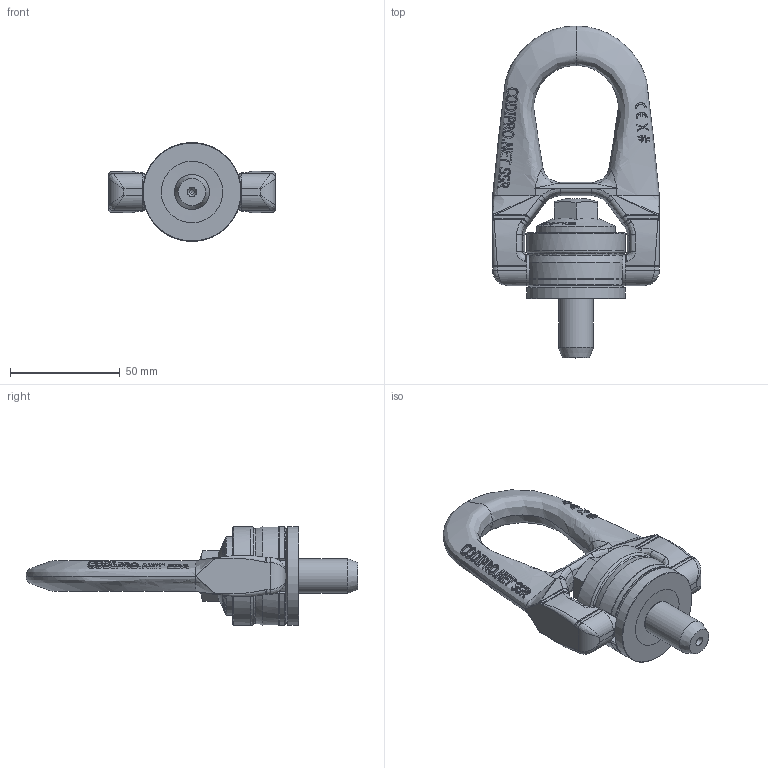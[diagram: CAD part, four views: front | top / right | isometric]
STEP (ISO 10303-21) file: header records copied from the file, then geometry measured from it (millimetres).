
FILE_DESCRIPTION(/* description */ (''),/* implementation_level */ '2;1');
FILE_NAME(/* name */ 'W:\CODIPRO\DOCUMENTS\Plans A NE PAS DIFFUSER !!!\Fichiers STEP\Gamme 2018\Produits NON GRADUP\SS DSR\SS DSR U058.stp',/* time_stamp */ '2017-09-26T13:21:01+02:00',/* author */ ('rklenes'),/* organization */ (''),/* preprocessor_version */ 'ST-DEVELOPER v16.5',/* originating_system */ 'Autodesk Inventor 2017',/* authorisation */ '');
FILE_SCHEMA (('AUTOMOTIVE_DESIGN { 1 0 10303 214 3 1 1 }'));
Products named in the file (5): SS DSR U058; DRM_AF2B-1; DRB_B2B; DRE_D2M16A; DRA_U5-8X57
Assembly tree (4 placements, depth 2):
  SS DSR U058
    DRM_AF2B-1
    DRB_B2B
    DRE_D2M16A
    DRA_U5-8X57
Bounding box: 76 x 151.25 x 45 mm (x, y, z)
Volume: 112768.3 mm3; surface area: 36377.5 mm2
Topology: 4 solids, 4 shells, 942 faces, 2467 edges, 1582 vertices
Faces by surface type: bspline 401, plane 389, cylinder 81, cone 59, torus 11, sphere 1
Full cylindrical faces by diameter (mm): 2 x1, 14 x2, 15.875 x1, 16 x2, 16.2 x1, 22.6 x2, 23 x2, 32 x1, 36 x1, 45 x2
Entity records: 49914 total; most frequent: CARTESIAN_POINT 29658, ORIENTED_EDGE 4826, DIRECTION 3055, EDGE_CURVE 2413, VERTEX_POINT 1576, AXIS2_PLACEMENT_3D 1083, EDGE_LOOP 1045, FACE_OUTER_BOUND 942
